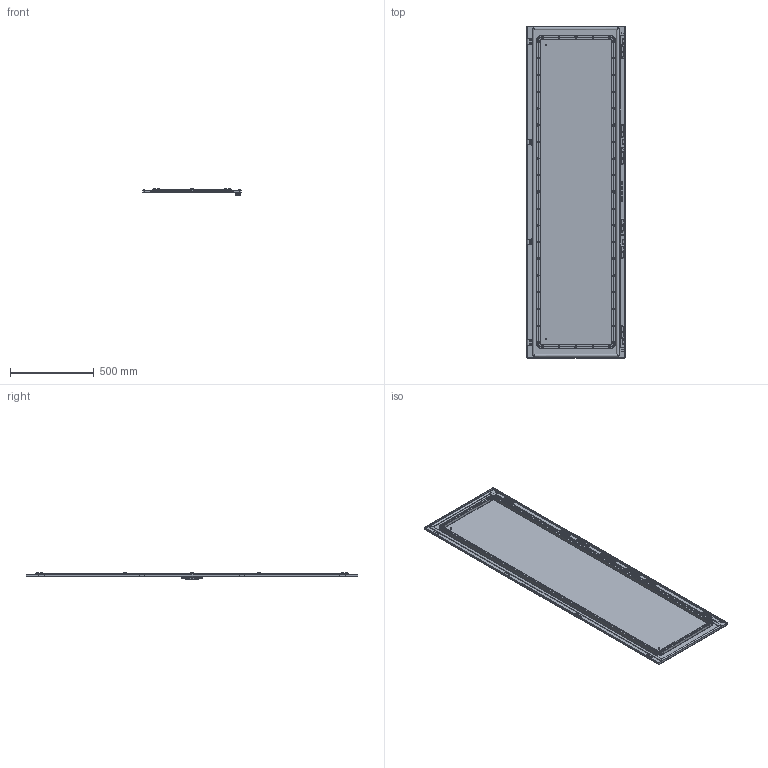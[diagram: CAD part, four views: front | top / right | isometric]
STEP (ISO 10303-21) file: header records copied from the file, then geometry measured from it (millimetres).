
FILE_DESCRIPTION(('STEP AP203'), '1');
FILE_NAME('Äâåðü îäíîñòâîð÷àòàÿ ãëóõàÿ 2000õ600 ìì IP55 OptiBox M 419634 ÊÝÀÇ', '', ('UNSPECIFIED'), ('UNSPECIFIED'), 'C3D Converter', 'C3D Toolkit', '');
FILE_SCHEMA(('CONFIG_CONTROL_DESIGN'));
Length unit declared in the file: millimetre
Bounding box: 586.4 x 1986.4 x 41.85 mm (x, y, z)
Volume: 3521041.7 mm3; surface area: 3551945 mm2
Topology: 62 solids, 62 shells, 6230 faces, 15945 edges, 9591 vertices
Faces by surface type: plane 3065, cylinder 2019, sphere 424, bspline 316, torus 266, cone 140
Full cylindrical faces by diameter (mm): 0.75 x18, 1 x32, 1.3 x6, 1.6 x4, 4 x2, 4.2 x2, 4.5 x134, 5 x16, 5.2 x1, 6 x25, 6.4 x16, 7 x8, 7.5 x24, 8 x16, 8.5 x1, 9 x98, 11 x2, 13.05 x1, 16.3 x1, 20.7 x1
Entity records: 285348 total; most frequent: CARTESIAN_POINT 89759, ORIENTED_EDGE 30184, DIRECTION 29341, EDGE_CURVE 15092, AXIS2_PLACEMENT_3D 10008, VERTEX_POINT 9571, LINE 9325, VECTOR 9325
